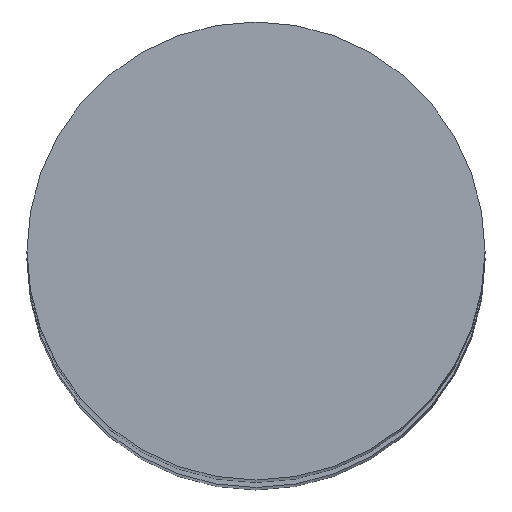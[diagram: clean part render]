
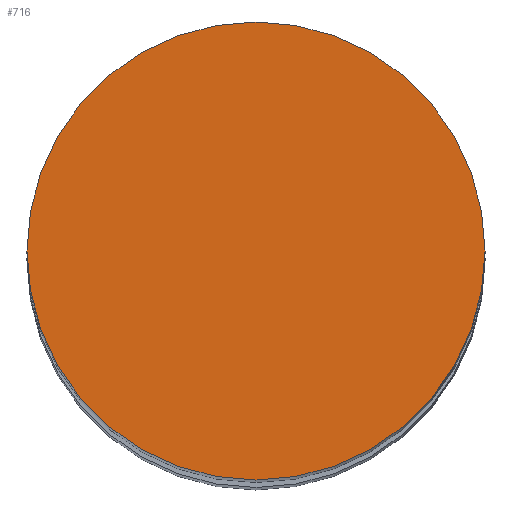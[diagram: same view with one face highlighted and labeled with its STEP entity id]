
A CAD part, top view. The second image highlights one B-rep face of the part: STEP entity #716.
In plain terms, the highlighted planar face has unit normal (0, 0, 1).
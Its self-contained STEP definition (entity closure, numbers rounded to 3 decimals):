
#494 = VERTEX_POINT ( 'NONE', #7073 ) ;
#716 = ADVANCED_FACE ( 'NONE', ( #7876 ), #8397, .T. ) ;
#1055 = DIRECTION ( 'NONE',  ( 1., 0., 0. ) ) ;
#2170 = EDGE_LOOP ( 'NONE', ( #4369, #4205 ) ) ;
#2255 = DIRECTION ( 'NONE',  ( 1., 0., 0. ) ) ;
#2341 = CARTESIAN_POINT ( 'NONE',  ( 0., 0., 75. ) ) ;
#2393 = VERTEX_POINT ( 'NONE', #4559 ) ;
#3173 = AXIS2_PLACEMENT_3D ( 'NONE', #4392, #7071, #1055 ) ;
#3179 = CIRCLE ( 'NONE', #3886, 6. ) ;
#3651 = DIRECTION ( 'NONE',  ( 0., 0., 1. ) ) ;
#3886 = AXIS2_PLACEMENT_3D ( 'NONE', #2341, #3651, #2255 ) ;
#4205 = ORIENTED_EDGE ( 'NONE', *, *, #6149, .T. ) ;
#4300 = AXIS2_PLACEMENT_3D ( 'NONE', #4498, #7046, #5023 ) ;
#4369 = ORIENTED_EDGE ( 'NONE', *, *, #8001, .T. ) ;
#4392 = CARTESIAN_POINT ( 'NONE',  ( 0., 0., 75. ) ) ;
#4498 = CARTESIAN_POINT ( 'NONE',  ( 0., 0., 75. ) ) ;
#4559 = CARTESIAN_POINT ( 'NONE',  ( -6., 0., 75. ) ) ;
#5023 = DIRECTION ( 'NONE',  ( 1., 0., 0. ) ) ;
#6149 = EDGE_CURVE ( 'NONE', #494, #2393, #7667, .T. ) ;
#7046 = DIRECTION ( 'NONE',  ( 0., 0., 1. ) ) ;
#7071 = DIRECTION ( 'NONE',  ( 0., 0., 1. ) ) ;
#7073 = CARTESIAN_POINT ( 'NONE',  ( 6., 0., 75. ) ) ;
#7667 = CIRCLE ( 'NONE', #3173, 6. ) ;
#7876 = FACE_OUTER_BOUND ( 'NONE', #2170, .T. ) ;
#8001 = EDGE_CURVE ( 'NONE', #2393, #494, #3179, .T. ) ;
#8397 = PLANE ( 'NONE',  #4300 ) ;
